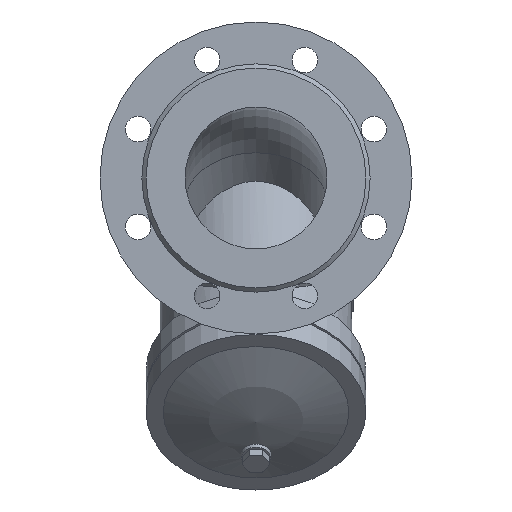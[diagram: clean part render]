
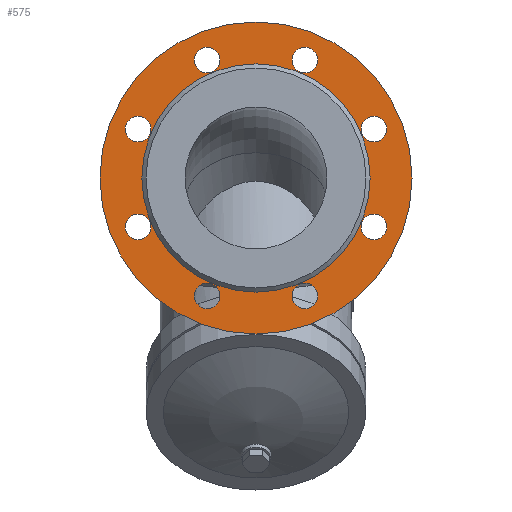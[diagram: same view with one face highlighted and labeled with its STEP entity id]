
A CAD part, front view. The second image highlights one B-rep face of the part: STEP entity #575.
In plain terms, the highlighted planar face has unit normal (0, -1, 0).
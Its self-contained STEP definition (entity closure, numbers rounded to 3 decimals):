
#575=ADVANCED_FACE('',(#1315,#1317,#1319,#1321,#1323,#1325,#1327,#1329,#1331,#1333),
#1335,.T.);
#1315=FACE_BOUND('',#1316,.T.);
#1316=EDGE_LOOP('',(#1788));
#1317=FACE_BOUND('',#1318,.T.);
#1318=EDGE_LOOP('',(#1789));
#1319=FACE_BOUND('',#1320,.T.);
#1320=EDGE_LOOP('',(#1790));
#1321=FACE_BOUND('',#1322,.T.);
#1322=EDGE_LOOP('',(#1791));
#1323=FACE_BOUND('',#1324,.T.);
#1324=EDGE_LOOP('',(#1792));
#1325=FACE_BOUND('',#1326,.T.);
#1326=EDGE_LOOP('',(#1793));
#1327=FACE_BOUND('',#1328,.T.);
#1328=EDGE_LOOP('',(#1794));
#1329=FACE_BOUND('',#1330,.T.);
#1330=EDGE_LOOP('',(#1795));
#1331=FACE_BOUND('',#1332,.T.);
#1332=EDGE_LOOP('',(#1796));
#1333=FACE_BOUND('',#1334,.T.);
#1334=EDGE_LOOP('',(#1797));
#1335=PLANE('',#1336);
#1336=AXIS2_PLACEMENT_3D('',#1337,#1338,#1339);
#1337=CARTESIAN_POINT('',(0.,-172.,0.));
#1338=DIRECTION('',(0.,-1.,0.));
#1339=DIRECTION('',(0.,0.,1.));
#1788=ORIENTED_EDGE('',*,*,#1980,.F.);
#1789=ORIENTED_EDGE('',*,*,#1988,.T.);
#1790=ORIENTED_EDGE('',*,*,#1987,.T.);
#1791=ORIENTED_EDGE('',*,*,#1986,.T.);
#1792=ORIENTED_EDGE('',*,*,#1985,.T.);
#1793=ORIENTED_EDGE('',*,*,#1984,.T.);
#1794=ORIENTED_EDGE('',*,*,#1983,.T.);
#1795=ORIENTED_EDGE('',*,*,#1982,.T.);
#1796=ORIENTED_EDGE('',*,*,#1999,.T.);
#1797=ORIENTED_EDGE('',*,*,#1981,.T.);
#1980=EDGE_CURVE('',#2213,#2213,#2214,.T.);
#1981=EDGE_CURVE('',#2215,#2215,#2216,.F.);
#1982=EDGE_CURVE('',#2217,#2217,#2218,.F.);
#1983=EDGE_CURVE('',#2219,#2219,#2220,.F.);
#1984=EDGE_CURVE('',#2221,#2221,#2222,.F.);
#1985=EDGE_CURVE('',#2223,#2223,#2224,.F.);
#1986=EDGE_CURVE('',#2225,#2225,#2226,.F.);
#1987=EDGE_CURVE('',#2227,#2227,#2228,.F.);
#1988=EDGE_CURVE('',#2229,#2229,#2230,.F.);
#1999=EDGE_CURVE('',#2251,#2251,#2252,.T.);
#2213=VERTEX_POINT('',#3553);
#2214=CIRCLE('',#3554,110.);
#2215=VERTEX_POINT('',#3558);
#2216=CIRCLE('',#3559,9.);
#2217=VERTEX_POINT('',#3563);
#2218=CIRCLE('',#3564,9.);
#2219=VERTEX_POINT('',#3568);
#2220=CIRCLE('',#3569,9.);
#2221=VERTEX_POINT('',#3573);
#2222=CIRCLE('',#3574,9.);
#2223=VERTEX_POINT('',#3578);
#2224=CIRCLE('',#3579,9.);
#2225=VERTEX_POINT('',#3583);
#2226=CIRCLE('',#3584,9.);
#2227=VERTEX_POINT('',#3588);
#2228=CIRCLE('',#3589,9.);
#2229=VERTEX_POINT('',#3593);
#2230=CIRCLE('',#3594,9.);
#2251=VERTEX_POINT('',#3648);
#2252=CIRCLE('',#3649,80.5);
#3553=CARTESIAN_POINT('',(0.,-172.,110.));
#3554=AXIS2_PLACEMENT_3D('',#3555,#3556,#3557);
#3555=CARTESIAN_POINT('',(0.,-172.,0.));
#3556=DIRECTION('',(0.,1.,0.));
#3557=DIRECTION('',(0.,0.,1.));
#3558=CARTESIAN_POINT('',(-25.442,-172.,83.149));
#3559=AXIS2_PLACEMENT_3D('',#3560,#3561,#3562);
#3560=CARTESIAN_POINT('',(-34.442,-172.,83.149));
#3561=DIRECTION('',(0.,-1.,0.));
#3562=DIRECTION('',(1.,0.,0.));
#3563=CARTESIAN_POINT('',(-76.785,-172.,40.805));
#3564=AXIS2_PLACEMENT_3D('',#3565,#3566,#3567);
#3565=CARTESIAN_POINT('',(-83.149,-172.,34.442));
#3566=DIRECTION('',(0.,-1.,0.));
#3567=DIRECTION('',(0.707,0.,0.707));
#3568=CARTESIAN_POINT('',(-83.149,-172.,-25.442));
#3569=AXIS2_PLACEMENT_3D('',#3570,#3571,#3572);
#3570=CARTESIAN_POINT('',(-83.149,-172.,-34.442));
#3571=DIRECTION('',(0.,-1.,0.));
#3572=DIRECTION('',(0.,0.,1.));
#3573=CARTESIAN_POINT('',(-40.805,-172.,-76.785));
#3574=AXIS2_PLACEMENT_3D('',#3575,#3576,#3577);
#3575=CARTESIAN_POINT('',(-34.442,-172.,-83.149));
#3576=DIRECTION('',(0.,-1.,0.));
#3577=DIRECTION('',(-0.707,0.,0.707));
#3578=CARTESIAN_POINT('',(25.442,-172.,-83.149));
#3579=AXIS2_PLACEMENT_3D('',#3580,#3581,#3582);
#3580=CARTESIAN_POINT('',(34.442,-172.,-83.149));
#3581=DIRECTION('',(0.,-1.,0.));
#3582=DIRECTION('',(-1.,0.,0.));
#3583=CARTESIAN_POINT('',(76.785,-172.,-40.805));
#3584=AXIS2_PLACEMENT_3D('',#3585,#3586,#3587);
#3585=CARTESIAN_POINT('',(83.149,-172.,-34.442));
#3586=DIRECTION('',(0.,-1.,0.));
#3587=DIRECTION('',(-0.707,0.,-0.707));
#3588=CARTESIAN_POINT('',(83.149,-172.,25.442));
#3589=AXIS2_PLACEMENT_3D('',#3590,#3591,#3592);
#3590=CARTESIAN_POINT('',(83.149,-172.,34.442));
#3591=DIRECTION('',(0.,-1.,0.));
#3592=DIRECTION('',(0.,0.,-1.));
#3593=CARTESIAN_POINT('',(40.805,-172.,76.785));
#3594=AXIS2_PLACEMENT_3D('',#3595,#3596,#3597);
#3595=CARTESIAN_POINT('',(34.442,-172.,83.149));
#3596=DIRECTION('',(0.,-1.,0.));
#3597=DIRECTION('',(0.707,0.,-0.707));
#3648=CARTESIAN_POINT('',(0.,-172.,80.5));
#3649=AXIS2_PLACEMENT_3D('',#3650,#3651,#3652);
#3650=CARTESIAN_POINT('',(0.,-172.,0.));
#3651=DIRECTION('',(0.,1.,0.));
#3652=DIRECTION('',(0.,0.,1.));
